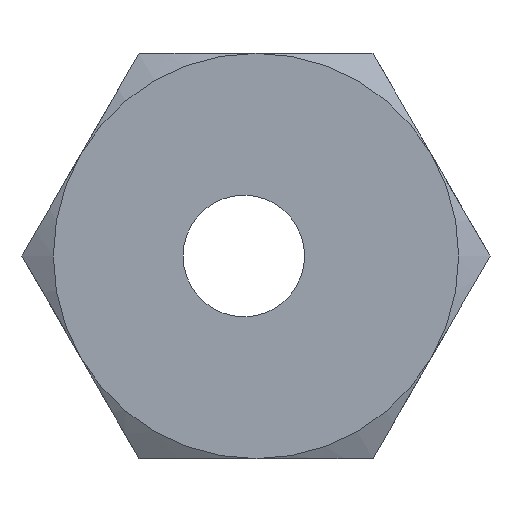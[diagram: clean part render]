
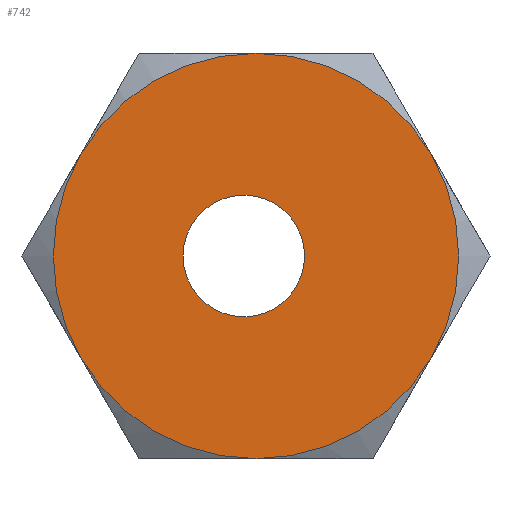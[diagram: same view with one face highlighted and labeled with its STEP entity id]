
A CAD part, left-side view. The second image highlights one B-rep face of the part: STEP entity #742.
In plain terms, the highlighted planar face has unit normal (-1, 0, 0).
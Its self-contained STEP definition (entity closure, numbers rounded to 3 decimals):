
#60=CARTESIAN_POINT('',(0.0,1.8,0.));
#61=VERTEX_POINT('',#60);
#62=CARTESIAN_POINT('',(0.,0.3,0.0));
#63=DIRECTION('',(1.0,0.0,0.0));
#64=DIRECTION('',(0.0,-1.0,0.0));
#65=AXIS2_PLACEMENT_3D('',#62,#63,#64);
#66=CIRCLE('',#65,1.5);
#67=EDGE_CURVE('',#61,#61,#66,.T.);
#77=CARTESIAN_POINT('',(0.0,0.,5.));
#78=VERTEX_POINT('',#77);
#94=CARTESIAN_POINT('',(0.0,-4.33,2.5));
#95=VERTEX_POINT('',#94);
#96=CARTESIAN_POINT('',(0.,0.0,0.0));
#97=DIRECTION('',(-1.0,0.0,0.0));
#98=DIRECTION('',(0.0,1.0,0.0));
#99=AXIS2_PLACEMENT_3D('',#96,#97,#98);
#100=CIRCLE('',#99,5.);
#101=EDGE_CURVE('',#95,#78,#100,.T.);
#126=CARTESIAN_POINT('',(0.0,-4.33,-2.5));
#127=VERTEX_POINT('',#126);
#154=CARTESIAN_POINT('',(0.,0.0,0.0));
#155=DIRECTION('',(-1.0,0.0,0.0));
#156=DIRECTION('',(0.0,1.0,0.0));
#157=AXIS2_PLACEMENT_3D('',#154,#155,#156);
#158=CIRCLE('',#157,5.);
#159=EDGE_CURVE('',#127,#95,#158,.T.);
#169=CARTESIAN_POINT('',(0.0,4.33,2.5));
#170=VERTEX_POINT('',#169);
#186=CARTESIAN_POINT('',(0.,0.0,0.0));
#187=DIRECTION('',(-1.0,0.0,0.0));
#188=DIRECTION('',(0.0,1.0,0.0));
#189=AXIS2_PLACEMENT_3D('',#186,#187,#188);
#190=CIRCLE('',#189,5.);
#191=EDGE_CURVE('',#78,#170,#190,.T.);
#216=CARTESIAN_POINT('',(0.0,0.,-5.));
#217=VERTEX_POINT('',#216);
#244=CARTESIAN_POINT('',(0.,0.0,0.0));
#245=DIRECTION('',(-1.0,0.0,0.0));
#246=DIRECTION('',(0.0,1.0,0.0));
#247=AXIS2_PLACEMENT_3D('',#244,#245,#246);
#248=CIRCLE('',#247,5.);
#249=EDGE_CURVE('',#217,#127,#248,.T.);
#259=CARTESIAN_POINT('',(0.0,4.33,-2.5));
#260=VERTEX_POINT('',#259);
#276=CARTESIAN_POINT('',(0.,0.0,0.0));
#277=DIRECTION('',(-1.0,0.0,0.0));
#278=DIRECTION('',(0.0,1.0,0.0));
#279=AXIS2_PLACEMENT_3D('',#276,#277,#278);
#280=CIRCLE('',#279,5.);
#281=EDGE_CURVE('',#170,#260,#280,.T.);
#332=CARTESIAN_POINT('',(0.,0.0,0.0));
#333=DIRECTION('',(-1.0,0.0,0.0));
#334=DIRECTION('',(0.0,1.0,0.0));
#335=AXIS2_PLACEMENT_3D('',#332,#333,#334);
#336=CIRCLE('',#335,5.);
#337=EDGE_CURVE('',#260,#217,#336,.T.);
#726=CARTESIAN_POINT('',(0.,2.5,0.0));
#727=DIRECTION('',(-1.0,0.0,0.0));
#728=DIRECTION('',(0.0,0.0,1.0));
#729=AXIS2_PLACEMENT_3D('',#726,#727,#728);
#730=PLANE('',#729);
#731=ORIENTED_EDGE('',*,*,#101,.T.);
#732=ORIENTED_EDGE('',*,*,#191,.T.);
#733=ORIENTED_EDGE('',*,*,#281,.T.);
#734=ORIENTED_EDGE('',*,*,#337,.T.);
#735=ORIENTED_EDGE('',*,*,#249,.T.);
#736=ORIENTED_EDGE('',*,*,#159,.T.);
#737=EDGE_LOOP('',(#731,#732,#733,#734,#735,#736));
#738=FACE_OUTER_BOUND('',#737,.T.);
#739=ORIENTED_EDGE('',*,*,#67,.T.);
#740=EDGE_LOOP('',(#739));
#741=FACE_BOUND('',#740,.T.);
#742=ADVANCED_FACE('',(#738,#741),#730,.T.);
